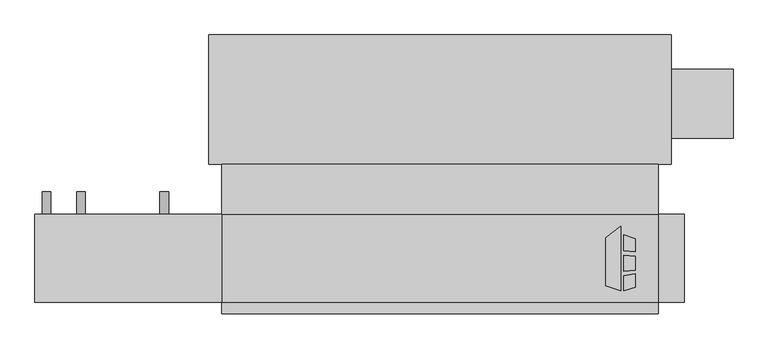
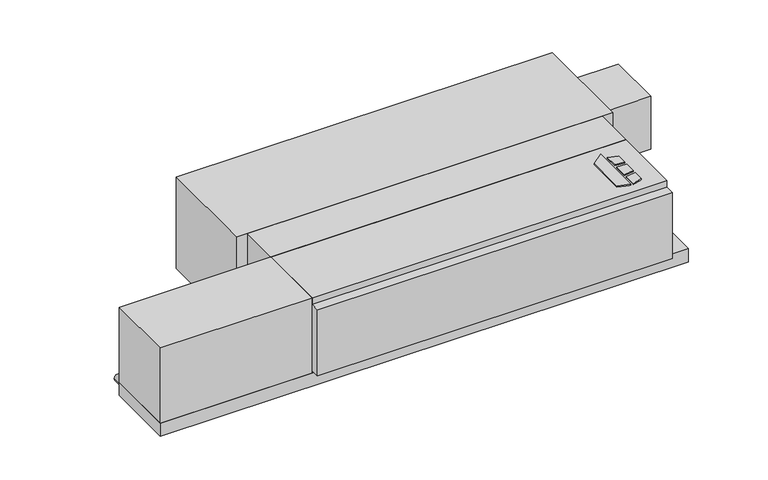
"""IFC4 building model written with IfcOpenShell, lengths in millimetres: proxy geometry, Concealed_Horizontal_Fan_Coil_Unit_With_Plenum_-_CPF_-_IEC_-_2-Pipe_LH : Size 08 - 115v/60Hz/1Ph - 4/1 Coil."""

from ifc_helpers import new_model, si_unit, point, frame, frame_2d, origin, origin_with_axes, place, context, project, spatial, polyline, circle_curve, trimmed, segment, composite_curve, outline, extrude, source, transform, mapped, element, save


def mechanical_equipment_a065ebe2(model_context):
    return source(origin(), model_context, "Body", "SweptSolid", [
        extrude(outline(polyline([(518.8019761, -193.0453476), (551.3602728, -167.6080184), (551.3602728, -309.5625), (518.8019761, -299.3429201), (518.8019761, -193.0453476)])), origin_with_axes(), (0.0, 0.0, 1.0), 3.175),
        extrude(outline(polyline([(558.1186058, -220.917352), (558.1186058, -186.4374379), (584.2, -194.6240115), (584.2, -224.1197446), (558.1186058, -220.917352)])), origin_with_axes(), (0.0, 0.0, 1.0), 3.175),
        extrude(outline(polyline([(584.2, -302.5740115), (558.1186058, -309.5625), (558.1186058, -276.3411996), (584.2, -272.7993564), (584.2, -302.5740115)])), origin_with_axes(), (0.0, 0.0, 1.0), 3.175),
        extrude(outline(polyline([(584.2, -233.2013277), (584.2, -264.451483), (558.1186058, -267.192748), (558.1186058, -231.3350378), (584.2, -233.2013277)])), origin_with_axes(), (0.0, 0.0, 1.0), 3.175),
        extrude(outline(polyline([(-330.2, -30.1625), (635.0, -30.1625), (635.0, -141.2875), (-330.2, -141.2875), (-330.2, -30.1625)])), frame((0.0, 0.0, -215.9), z_axis=(0.0, 0.0, 1.0), x_axis=(1.0, 0.0, 0.0)), (0.0, 0.0, 1.0), 215.9),
        extrude(outline(polyline([(-742.95, -334.9625), (-742.95, -141.2875), (-330.2, -141.2875), (-330.2, -334.9625), (-742.95, -334.9625)])), frame((0.0, 0.0, -215.9), z_axis=(0.0, 0.0, 1.0), x_axis=(1.0, 0.0, 0.0)), (0.0, 0.0, 1.0), 215.9),
        extrude(outline(polyline([(692.15, -141.2875), (692.15, -334.9625), (-742.95, -334.9625), (-742.95, -141.2875), (692.15, -141.2875)])), frame((0.0, 0.0, -254.0), z_axis=(0.0, 0.0, 1.0), x_axis=(1.0, 0.0, 0.0)), (0.0, 0.0, 1.0), 38.1),
        extrude(outline(composite_curve([segment(trimmed(circle_curve(frame_2d((-158.75, -641.35)), 9.525), [point((-158.75, -631.825))], [point((-158.75, -650.875))], False, "CARTESIAN"), True, "CONTINUOUS"), segment(trimmed(circle_curve(frame_2d((-158.75, -641.35)), 9.525), [point((-158.75, -650.875))], [point((-158.75, -631.825))], False, "CARTESIAN"), True, "CONTINUOUS")], self_intersect=False)), frame((0.0, -141.2875, 0.0), z_axis=(0.0, 1.0, 0.0), x_axis=(0.0, 0.0, 1.0)), (0.0, 0.0, 1.0), 50.8),
        extrude(outline(composite_curve([segment(trimmed(circle_curve(frame_2d((-158.75, -457.2)), 9.525), [point((-158.75, -447.675))], [point((-158.75, -466.725))], False, "CARTESIAN"), True, "CONTINUOUS"), segment(trimmed(circle_curve(frame_2d((-158.75, -457.2)), 9.525), [point((-158.75, -466.725))], [point((-158.75, -447.675))], False, "CARTESIAN"), True, "CONTINUOUS")], self_intersect=False)), frame((0.0, -141.2875, 0.0), z_axis=(0.0, 1.0, 0.0), x_axis=(0.0, 0.0, 1.0)), (0.0, 0.0, 1.0), 50.8),
        extrude(outline(composite_curve([segment(trimmed(circle_curve(frame_2d((-241.3, -717.55)), 9.525), [point((-241.3, -727.075))], [point((-241.3, -708.025))], False, "CARTESIAN"), True, "CONTINUOUS"), segment(trimmed(circle_curve(frame_2d((-241.3, -717.55)), 9.525), [point((-241.3, -708.025))], [point((-241.3, -727.075))], False, "CARTESIAN"), True, "CONTINUOUS")], self_intersect=False)), frame((0.0, -141.2875, 0.0), z_axis=(0.0, 1.0, 0.0), x_axis=(0.0, 0.0, 1.0)), (0.0, 0.0, 1.0), 50.8),
        extrude(outline(polyline([(635.0, -334.9625), (635.0, -360.3625), (-330.2, -360.3625), (-330.2, -334.9625), (635.0, -334.9625)])), frame((0.0, 0.0, -209.55), z_axis=(0.0, 0.0, 1.0), x_axis=(1.0, 0.0, 0.0)), (0.0, 0.0, 1.0), 190.5),
        extrude(outline(polyline([(635.0, -334.9625), (-330.2, -334.9625), (-330.2, -141.2875), (635.0, -141.2875), (635.0, -334.9625)])), frame((0.0, 0.0, -215.9), z_axis=(0.0, 0.0, 1.0), x_axis=(1.0, 0.0, 0.0)), (0.0, 0.0, 1.0), 215.9),
        extrude(outline(polyline([(663.575, 26.9875), (663.575, 179.3875), (800.1, 179.3875), (800.1, 26.9875), (663.575, 26.9875)])), frame((0.0, 0.0, -187.325), z_axis=(0.0, 0.0, 1.0), x_axis=(1.0, 0.0, 0.0)), (0.0, 0.0, 1.0), 152.4),
        extrude(outline(polyline([(-358.775, 255.5875), (663.575, 255.5875), (663.575, -30.1625), (-358.775, -30.1625), (-358.775, 255.5875)])), frame((0.0, 0.0, -263.525), z_axis=(0.0, 0.0, 1.0), x_axis=(1.0, 0.0, 0.0)), (0.0, 0.0, 1.0), 263.525),
    ])


if __name__ == "__main__":
    model = new_model("IFC4")
    model_context = context("Model", 3, world=origin())
    ifc_project = project(units=[si_unit("LENGTHUNIT", "METRE", prefix="MILLI")], contexts=[model_context])
    site = spatial("IfcSite", under=ifc_project)
    building = spatial("IfcBuilding", under=site)
    placement = place(None, origin())
    mechanical_equipment_shape = mechanical_equipment_a065ebe2(model_context)
    element("IfcBuildingElementProxy", 1, Name="Concealed_Horizontal_Fan_Coil_Unit_With_Plenum_-_CPF_-_IEC_-_2-Pipe_LH : Size 08 - 115v/60Hz/1Ph - 4/1 Coil", ObjectType="Concealed_Horizontal_Fan_Coil_Unit_With_Plenum_-_CPF_-_IEC_-_2-Pipe_LH : Size 08 - 115v/60Hz/1Ph - 4/1 Coil", at=placement, inside=building, context=model_context, shape_type="MappedRepresentation", body=[
        mapped(mechanical_equipment_shape, transform((0.0, 0.0, 0.0), x_axis=(1.0, 0.0, 0.0), y_axis=(0.0, 1.0, 0.0), z_axis=(0.0, 0.0, 1.0))),
    ])
    save(model, "model.ifc")
